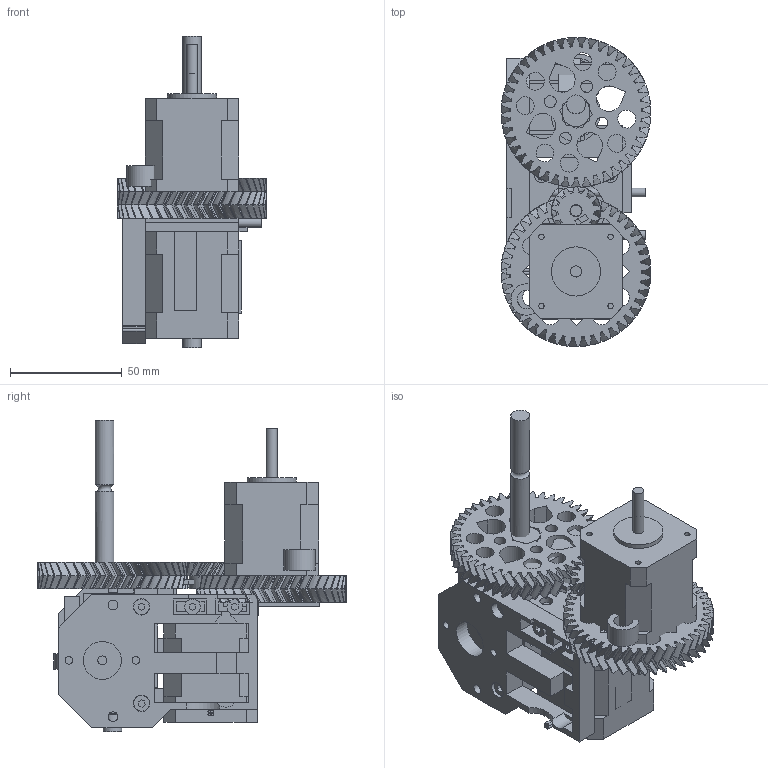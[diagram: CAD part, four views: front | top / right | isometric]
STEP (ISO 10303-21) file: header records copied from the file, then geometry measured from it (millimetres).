
FILE_DESCRIPTION( ( 'Unknown' ), '1' );
FILE_NAME( '//psf/Home/Documents/workspace/Rhys/Herringbone Extruder Driver/Herringbone Extruder.stp', 'Unknown', ( 'Unknown' ), ( 'Unknown' ), 'PSStep 11.0', 'Unknown', ' ' );
FILE_SCHEMA( ( 'AUTOMOTIVE_DESIGN { 1 0 10303 214 1 1 1 1 }' ) );
Length unit declared in the file: millimetre
Products named in the file (19): Assem1; Idler; Drive Gear Holder; stepper-motor-nema17-fl42sth47-1684A-01; Motor Bracket; Spacer; 8X20; g1; g2; m8-washer; 608-bearing; Base; m8-nut; M8Bolt; Ally Plate 1; Brace; m3-nut; m4-cap; m4x55-cap
Bounding box: 67.14 x 138.46 x 139.6 mm (x, y, z)
Volume: 406188.4 mm3; surface area: 159784.7 mm2
Topology: 50 solids, 50 shells, 2073 faces, 5415 edges, 3498 vertices
Faces by surface type: bspline 992, plane 714, cylinder 355, cone 10, torus 2
Full cylindrical faces by diameter (mm): 1.2 x8, 2.459 x11, 3.4 x16, 4 x16, 4.4 x14, 5 x10, 5.325 x8, 5.4 x2, 5.9 x8, 6.647 x2, 7 x6, 7.4 x4, 8 x24, 8.4 x6, 8.5 x11, 12 x8, 14 x2, 16 x11, 17 x2, 18 x8, 19.514 x2, 22 x6, 26.202 x2
Entity records: 69589 total; most frequent: CARTESIAN_POINT 40144, ORIENTED_EDGE 4994, DIRECTION 3088, EDGE_CURVE 2497, VERTEX_POINT 1649, EDGE_LOOP 1218, FACE_OUTER_BOUND 1064, AXIS2_PLACEMENT_3D 1036
